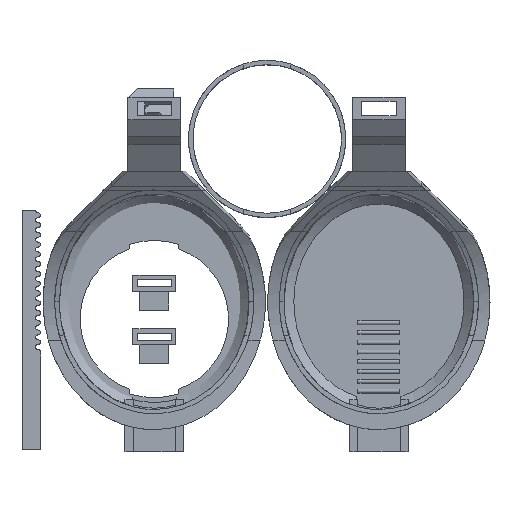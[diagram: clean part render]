
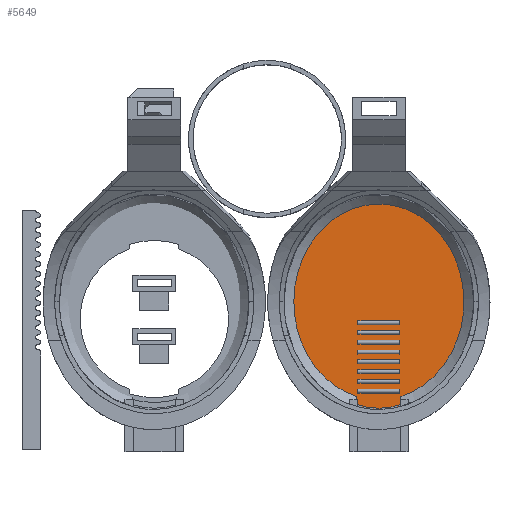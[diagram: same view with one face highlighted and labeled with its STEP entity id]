
A CAD part, top view. The second image highlights one B-rep face of the part: STEP entity #5649.
In plain terms, the highlighted planar face has unit normal (0, 0, 1).
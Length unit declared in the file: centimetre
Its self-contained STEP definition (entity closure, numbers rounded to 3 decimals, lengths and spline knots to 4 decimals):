
#169=B_SPLINE_CURVE_WITH_KNOTS($,3,(#8957,#8958,#8959,#8960,#8961,#8962,
#8963,#8964,#8965,#8966,#8967,#8968,#8969,#8970,#8971,#8972,#8973,#8974,
#8975,#8976,#8977,#8978,#8979,#8980,#8981,#8982,#8983,#8984,#8985,#8986,
#8987,#8988,#8989,#8990,#8991,#8992,#8993,#8994,#8995,#8996,#8997,#8998,
#8999,#9000,#9001,#9002),.UNSPECIFIED.,.T.,.F.,(4,3,3,3,3,3,3,3,3,3,3,3,
3,3,3,4),(12.1147,13.0466,13.9784,14.9102,
15.842,16.7738,17.7056,18.948,19.2586,
19.5692,20.1905,21.4329,22.3647,23.2965,
24.2283,25.1601),.UNSPECIFIED.);
#439=FACE_OUTER_BOUND($,#764,.T.);
#764=EDGE_LOOP($,(#3941));
#2320=VERTEX_POINT($,#8956);
#2943=EDGE_CURVE($,#2320,#2320,#169,.T.);
#3941=ORIENTED_EDGE($,*,*,#2943,.T.);
#5412=PLANE($,#6025);
#5649=ADVANCED_FACE($,(#439),#5412,.T.);
#6025=AXIS2_PLACEMENT_3D($,#8955,#6548,#6549);
#6548=DIRECTION('center_axis',(0.,0.,1.));
#6549=DIRECTION('ref_axis',(-1.,0.,0.));
#8955=CARTESIAN_POINT('Origin',(-10.4,22.6,0.1));
#8956=CARTESIAN_POINT('',(-10.4017,20.3218,0.1));
#8957=CARTESIAN_POINT('Ctrl Pts',(-10.4017,20.3217,0.1));
#8958=CARTESIAN_POINT('Ctrl Pts',(-10.1109,20.3217,0.1));
#8959=CARTESIAN_POINT('Ctrl Pts',(-9.8201,20.3972,0.1));
#8960=CARTESIAN_POINT('Ctrl Pts',(-9.5583,20.5404,0.1));
#8961=CARTESIAN_POINT('Ctrl Pts',(-9.2965,20.6836,0.1));
#8962=CARTESIAN_POINT('Ctrl Pts',(-9.0638,20.8946,0.1));
#8963=CARTESIAN_POINT('Ctrl Pts',(-8.883,21.1524,0.1));
#8964=CARTESIAN_POINT('Ctrl Pts',(-8.7021,21.4101,0.1));
#8965=CARTESIAN_POINT('Ctrl Pts',(-8.5732,21.7145,0.1));
#8966=CARTESIAN_POINT('Ctrl Pts',(-8.5088,22.0357,0.1));
#8967=CARTESIAN_POINT('Ctrl Pts',(-8.4443,22.3568,0.1));
#8968=CARTESIAN_POINT('Ctrl Pts',(-8.4443,22.6947,0.1));
#8969=CARTESIAN_POINT('Ctrl Pts',(-8.5088,23.0157,0.1));
#8970=CARTESIAN_POINT('Ctrl Pts',(-8.5733,23.3367,0.1));
#8971=CARTESIAN_POINT('Ctrl Pts',(-8.7023,23.6409,0.1));
#8972=CARTESIAN_POINT('Ctrl Pts',(-8.8831,23.8988,0.1));
#8973=CARTESIAN_POINT('Ctrl Pts',(-9.0639,24.1566,0.1));
#8974=CARTESIAN_POINT('Ctrl Pts',(-9.2966,24.3681,0.1));
#8975=CARTESIAN_POINT('Ctrl Pts',(-9.5583,24.5111,0.1));
#8976=CARTESIAN_POINT('Ctrl Pts',(-9.9073,24.7018,0.1));
#8977=CARTESIAN_POINT('Ctrl Pts',(-10.308,24.7707,0.1));
#8978=CARTESIAN_POINT('Ctrl Pts',(-10.6914,24.7052,0.1));
#8979=CARTESIAN_POINT('Ctrl Pts',(-10.7873,24.6888,0.1));
#8980=CARTESIAN_POINT('Ctrl Pts',(-10.8821,24.664,0.1));
#8981=CARTESIAN_POINT('Ctrl Pts',(-10.9747,24.6314,0.1));
#8982=CARTESIAN_POINT('Ctrl Pts',(-11.0673,24.5989,0.1));
#8983=CARTESIAN_POINT('Ctrl Pts',(-11.1576,24.5586,0.1));
#8984=CARTESIAN_POINT('Ctrl Pts',(-11.2449,24.5108,0.1));
#8985=CARTESIAN_POINT('Ctrl Pts',(-11.4195,24.4154,0.1));
#8986=CARTESIAN_POINT('Ctrl Pts',(-11.5817,24.2903,0.1));
#8987=CARTESIAN_POINT('Ctrl Pts',(-11.7234,24.1407,0.1));
#8988=CARTESIAN_POINT('Ctrl Pts',(-12.0069,23.8414,0.1));
#8989=CARTESIAN_POINT('Ctrl Pts',(-12.2087,23.4438,0.1));
#8990=CARTESIAN_POINT('Ctrl Pts',(-12.2949,23.0159,0.1));
#8991=CARTESIAN_POINT('Ctrl Pts',(-12.3595,22.6949,0.1));
#8992=CARTESIAN_POINT('Ctrl Pts',(-12.3591,22.3568,0.1));
#8993=CARTESIAN_POINT('Ctrl Pts',(-12.2945,22.0356,0.1));
#8994=CARTESIAN_POINT('Ctrl Pts',(-12.23,21.7144,0.1));
#8995=CARTESIAN_POINT('Ctrl Pts',(-12.1012,21.4101,0.1));
#8996=CARTESIAN_POINT('Ctrl Pts',(-11.9205,21.1524,0.1));
#8997=CARTESIAN_POINT('Ctrl Pts',(-11.7397,20.8947,0.1));
#8998=CARTESIAN_POINT('Ctrl Pts',(-11.5069,20.6836,0.1));
#8999=CARTESIAN_POINT('Ctrl Pts',(-11.2451,20.5404,0.1));
#9000=CARTESIAN_POINT('Ctrl Pts',(-10.9833,20.3971,0.1));
#9001=CARTESIAN_POINT('Ctrl Pts',(-10.6925,20.3217,0.1));
#9002=CARTESIAN_POINT('Ctrl Pts',(-10.4017,20.3217,0.1));
